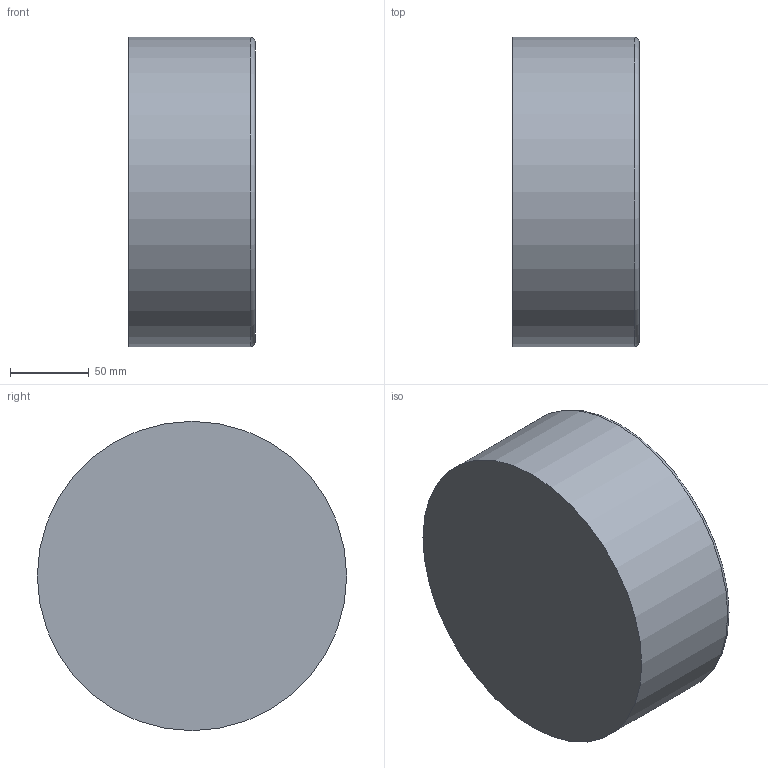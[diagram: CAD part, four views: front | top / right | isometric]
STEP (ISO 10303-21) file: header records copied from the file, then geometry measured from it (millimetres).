
FILE_DESCRIPTION(/* description */ (''),/* implementation_level */ '2;1');
FILE_NAME(/* name */ 'C:\Users\user\Documents\Inventor\Home Ventilator CPAP\Water in pot.stp',/* time_stamp */ '2020-04-03T13:37:50+02:00',/* author */ ('user'),/* organization */ (''),/* preprocessor_version */ 'ST-DEVELOPER v16.5',/* originating_system */ 'Autodesk Inventor 2017',/* authorisation */ '');
FILE_SCHEMA (('AUTOMOTIVE_DESIGN { 1 0 10303 214 3 1 1 }'));
Length unit declared in the file: millimetre
Products named in the file (1): Water in pot
Bounding box: 80 x 196 x 196 mm (x, y, z)
Volume: 2412567.3 mm3; surface area: 108807 mm2
Topology: 1 solids, 1 shells, 4 faces, 5 edges, 3 vertices
Faces by surface type: plane 2, torus 1, cylinder 1
Full cylindrical faces by diameter (mm): 196 x1
Entity records: 104 total; most frequent: DIRECTION 16, CARTESIAN_POINT 11, AXIS2_PLACEMENT_3D 8, EDGE_LOOP 6, ORIENTED_EDGE 6, FACE_OUTER_BOUND 4, ADVANCED_FACE 4, CIRCLE 3
